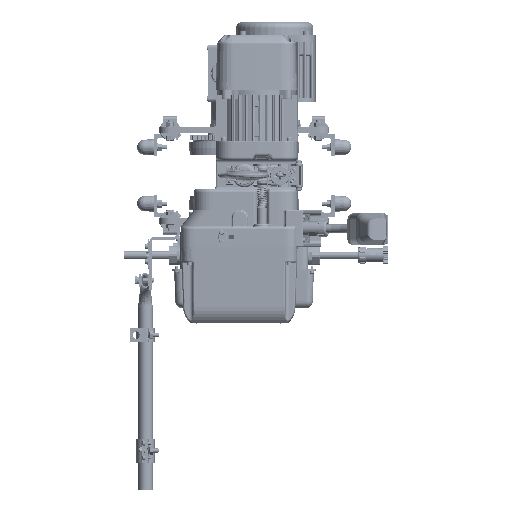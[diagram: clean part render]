
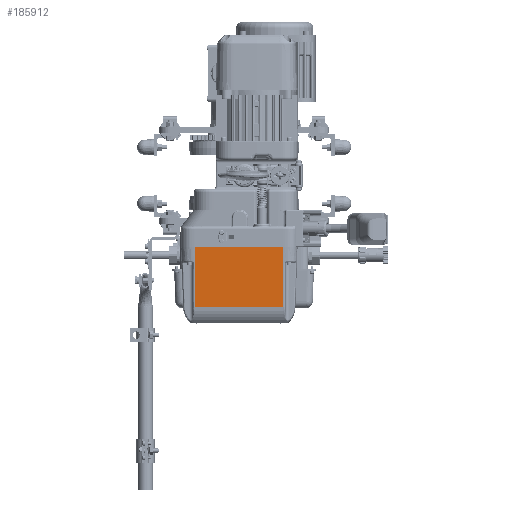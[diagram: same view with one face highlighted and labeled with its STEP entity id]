
A CAD part, front view. The second image highlights one B-rep face of the part: STEP entity #185912.
In plain terms, the highlighted planar face has unit normal (0, -0.999, -0.035) as drawn and (0, -0.999, 0.035) by its records, which use the part's own axes.
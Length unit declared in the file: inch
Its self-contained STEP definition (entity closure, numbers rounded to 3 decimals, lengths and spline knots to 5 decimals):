
#1534 = DIRECTION ( 'NONE',  ( 0., -0.035, -0.999 ) ) ;
#1634 = DIRECTION ( 'NONE',  ( 0., -0.035, -0.999 ) ) ;
#3158 = ORIENTED_EDGE ( 'NONE', *, *, #267428, .T. ) ;
#27236 = VECTOR ( 'NONE', #82848, 39.37008 ) ;
#27844 = EDGE_CURVE ( 'NONE', #50736, #52475, #88383, .T. ) ;
#50736 = VERTEX_POINT ( 'NONE', #324545 ) ;
#52475 = VERTEX_POINT ( 'NONE', #239087 ) ;
#61962 = CARTESIAN_POINT ( 'NONE',  ( 0., -3.2874, 0. ) ) ;
#73358 = ORIENTED_EDGE ( 'NONE', *, *, #27844, .F. ) ;
#82848 = DIRECTION ( 'NONE',  ( -1., 0., 0. ) ) ;
#86495 = CARTESIAN_POINT ( 'NONE',  ( -3.22231, -3.13544, 4.35172 ) ) ;
#88383 = LINE ( 'NONE', #207325, #88482 ) ;
#88482 = VECTOR ( 'NONE', #1634, 39.37008 ) ;
#118107 = FACE_OUTER_BOUND ( 'NONE', #213202, .T. ) ;
#119810 = LINE ( 'NONE', #340879, #304781 ) ;
#133054 = VECTOR ( 'NONE', #1534, 39.37008 ) ;
#143893 = VERTEX_POINT ( 'NONE', #346196 ) ;
#145243 = DIRECTION ( 'NONE',  ( 0., -0.999, 0.035 ) ) ;
#148969 = AXIS2_PLACEMENT_3D ( 'NONE', #61962, #145243, #172406 ) ;
#162479 = VERTEX_POINT ( 'NONE', #86495 ) ;
#169699 = CARTESIAN_POINT ( 'NONE',  ( 0., -3.2874, 0. ) ) ;
#172406 = DIRECTION ( 'NONE',  ( 0., -0.035, -0.999 ) ) ;
#185592 = EDGE_CURVE ( 'NONE', #52475, #143893, #193320, .T. ) ;
#185912 = ADVANCED_FACE ( 'NONE', ( #118107 ), #199541, .T. ) ;
#193320 = LINE ( 'NONE', #169699, #27236 ) ;
#199541 = PLANE ( 'NONE',  #148969 ) ;
#207325 = CARTESIAN_POINT ( 'NONE',  ( 3.22231, -3.2874, 0. ) ) ;
#213202 = EDGE_LOOP ( 'NONE', ( #272279, #3158, #349386, #73358 ) ) ;
#228287 = EDGE_CURVE ( 'NONE', #50736, #162479, #119810, .T. ) ;
#239087 = CARTESIAN_POINT ( 'NONE',  ( 3.22231, -3.2874, 0. ) ) ;
#267428 = EDGE_CURVE ( 'NONE', #162479, #143893, #280328, .T. ) ;
#272279 = ORIENTED_EDGE ( 'NONE', *, *, #228287, .T. ) ;
#280328 = LINE ( 'NONE', #282109, #133054 ) ;
#282109 = CARTESIAN_POINT ( 'NONE',  ( -3.22231, -3.2874, 0. ) ) ;
#304781 = VECTOR ( 'NONE', #342644, 39.37008 ) ;
#324545 = CARTESIAN_POINT ( 'NONE',  ( 3.22231, -3.13544, 4.35172 ) ) ;
#340879 = CARTESIAN_POINT ( 'NONE',  ( 3.22231, -3.13544, 4.35172 ) ) ;
#342644 = DIRECTION ( 'NONE',  ( -1., 0., 0. ) ) ;
#346196 = CARTESIAN_POINT ( 'NONE',  ( -3.22231, -3.2874, 0. ) ) ;
#349386 = ORIENTED_EDGE ( 'NONE', *, *, #185592, .F. ) ;
